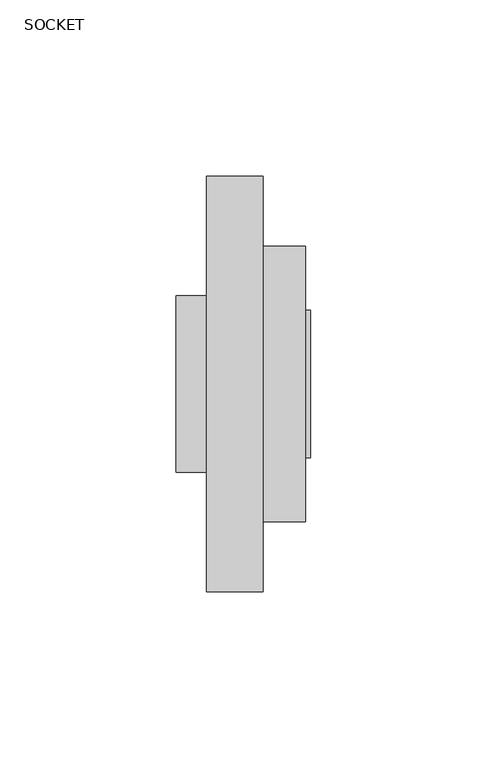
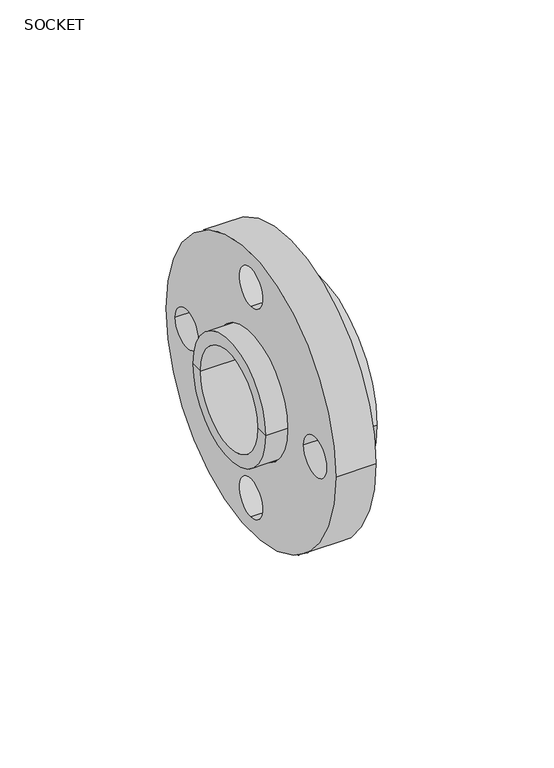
"""IFC4 building model written with IfcOpenShell, lengths in millimetres: valve geometry, Aquatherm - Flange Adapter Socket : SOCKET."""

from ifc_helpers import new_model, si_unit, point, frame, frame_2d, origin, origin_2d, place, context, project, spatial, polyline, circle_curve, trimmed, segment, composite_curve, outline, extrude, source, transform, mapped, element, save
from ifc_brep_helpers import plane_surface, cylinder_surface, revolved_surface, advanced_brep


def socket_cbd8b573(model_context):
    return source(origin(), model_context, "Body", "SolidModel", [
        extrude(outline(composite_curve([segment(trimmed(circle_curve(origin_2d(), 58.801), [point((-58.801, 0.0))], [point((58.801, 0.0))], False, "CARTESIAN"), True, "CONTINUOUS"), segment(trimmed(circle_curve(origin_2d(), 58.801), [point((58.801, 0.0))], [point((-58.801, 0.0))], False, "CARTESIAN"), True, "CONTINUOUS")], self_intersect=False), holes=[composite_curve([segment(trimmed(circle_curve(origin_2d(), 25.4), [point((-25.4, 0.0))], [point((25.4, 0.0))], True, "CARTESIAN"), True, "CONTINUOUS"), segment(trimmed(circle_curve(origin_2d(), 25.4), [point((25.4, 0.0))], [point((-25.4, 0.0))], True, "CARTESIAN"), True, "CONTINUOUS")], self_intersect=False), composite_curve([segment(trimmed(circle_curve(frame_2d((44.45, 0.0)), 8.001), [point((36.449, 0.0))], [point((52.451, 0.0))], True, "CARTESIAN"), True, "CONTINUOUS"), segment(trimmed(circle_curve(frame_2d((44.45, 0.0)), 8.001), [point((52.451, 0.0))], [point((36.449, 0.0))], True, "CARTESIAN"), True, "CONTINUOUS")], self_intersect=False), composite_curve([segment(trimmed(circle_curve(frame_2d((0.0, -44.45)), 8.001), [point((0.0, -36.449))], [point((0.0, -52.451))], True, "CARTESIAN"), True, "CONTINUOUS"), segment(trimmed(circle_curve(frame_2d((0.0, -44.45)), 8.001), [point((0.0, -52.451))], [point((0.0, -36.449))], True, "CARTESIAN"), True, "CONTINUOUS")], self_intersect=False), composite_curve([segment(trimmed(circle_curve(frame_2d((0.0, 44.45)), 8.001), [point((0.0, 36.449))], [point((0.0, 52.451))], True, "CARTESIAN"), True, "CONTINUOUS"), segment(trimmed(circle_curve(frame_2d((0.0, 44.45)), 8.001), [point((0.0, 52.451))], [point((0.0, 36.449))], True, "CARTESIAN"), True, "CONTINUOUS")], self_intersect=False), composite_curve([segment(trimmed(circle_curve(frame_2d((-44.45, 0.0)), 8.001), [point((-36.449, 0.0))], [point((-52.451, 0.0))], True, "CARTESIAN"), True, "CONTINUOUS"), segment(trimmed(circle_curve(frame_2d((-44.45, 0.0)), 8.001), [point((-52.451, 0.0))], [point((-36.449, 0.0))], True, "CARTESIAN"), True, "CONTINUOUS")], self_intersect=False)]), frame((-16.002, 0.0, 0.0), z_axis=(1.0, 0.0, 0.0), x_axis=(0.0, 1.0, 0.0)), (0.0, 0.0, 1.0), 16.002),
        advanced_brep(
        [(13.462, 15.875, 0.0), (13.462, -15.875, 0.0), (13.462, -20.955, 0.0), (13.462, 20.955, 0.0), (-4.064, 15.875, 0.0), (-4.064, -15.875, 0.0), (-4.064, 19.939, 0.0), (-4.064, -19.939, 0.0), (-24.638, 19.939, 0.0), (-24.638, -19.939, 0.0), (-24.638, 25.019, 0.0), (-24.638, -25.019, 0.0), (0.0, 25.019, 0.0), (0.0, -25.019, 0.0), (0.0, 38.989, 0.0), (0.0, -38.989, 0.0), (11.938, 38.989, 0.0), (11.938, -38.989, 0.0), (11.938, 20.955, 0.0), (11.938, -20.955, 0.0)],
        [
            (0, 1, circle_curve(frame((13.462, 0.0, 0.0), z_axis=(-1.0, 0.0, 0.0), x_axis=(0.0, -1.0, 0.0)), 15.875)),
            (1, 2),
            (2, 3, circle_curve(frame((13.462, 0.0, 0.0), z_axis=(1.0, 0.0, 0.0), x_axis=(0.0, -1.0, 0.0)), 20.955)),
            (3, 0),
            (1, 0, circle_curve(frame((13.462, 0.0, 0.0), z_axis=(-1.0, 0.0, 0.0), x_axis=(0.0, -1.0, 0.0)), 15.875)),
            (3, 2, circle_curve(frame((13.462, 0.0, 0.0), z_axis=(1.0, 0.0, 0.0), x_axis=(0.0, -1.0, 0.0)), 20.955)),
            (4, 5, circle_curve(frame((-4.064, 0.0, 0.0), z_axis=(-1.0, 0.0, 0.0), x_axis=(0.0, -1.0, 0.0)), 15.875)),
            (5, 1),
            (0, 4),
            (5, 4, circle_curve(frame((-4.064, 0.0, 0.0), z_axis=(-1.0, 0.0, 0.0), x_axis=(0.0, -1.0, 0.0)), 15.875)),
            (6, 7, circle_curve(frame((-4.064, 0.0, 0.0), z_axis=(-1.0, 0.0, 0.0), x_axis=(0.0, -1.0, 0.0)), 19.939)),
            (7, 5),
            (4, 6),
            (7, 6, circle_curve(frame((-4.064, 0.0, 0.0), z_axis=(-1.0, 0.0, 0.0), x_axis=(0.0, -1.0, 0.0)), 19.939)),
            (8, 9, circle_curve(frame((-24.638, 0.0, 0.0), z_axis=(-1.0, 0.0, 0.0), x_axis=(0.0, -1.0, 0.0)), 19.939)),
            (9, 7),
            (6, 8),
            (9, 8, circle_curve(frame((-24.638, 0.0, 0.0), z_axis=(-1.0, 0.0, 0.0), x_axis=(0.0, -1.0, 0.0)), 19.939)),
            (10, 11, circle_curve(frame((-24.638, 0.0, 0.0), z_axis=(-1.0, 0.0, 0.0), x_axis=(0.0, -1.0, 0.0)), 25.019)),
            (11, 9),
            (8, 10),
            (11, 10, circle_curve(frame((-24.638, 0.0, 0.0), z_axis=(-1.0, 0.0, 0.0), x_axis=(0.0, -1.0, 0.0)), 25.019)),
            (12, 13, circle_curve(frame((0.0, 0.0, 0.0), z_axis=(-1.0, 0.0, 0.0), x_axis=(0.0, -1.0, 0.0)), 25.019)),
            (13, 11),
            (10, 12),
            (13, 12, circle_curve(frame((0.0, 0.0, 0.0), z_axis=(-1.0, 0.0, 0.0), x_axis=(0.0, -1.0, 0.0)), 25.019)),
            (14, 15, circle_curve(frame((0.0, 0.0, 0.0), z_axis=(-1.0, 0.0, 0.0), x_axis=(0.0, -1.0, 0.0)), 38.989)),
            (15, 13),
            (12, 14),
            (15, 14, circle_curve(frame((0.0, 0.0, 0.0), z_axis=(-1.0, 0.0, 0.0), x_axis=(0.0, -1.0, 0.0)), 38.989)),
            (16, 17, circle_curve(frame((11.938, 0.0, 0.0), z_axis=(-1.0, 0.0, 0.0), x_axis=(0.0, -1.0, 0.0)), 38.989)),
            (17, 15),
            (14, 16),
            (17, 16, circle_curve(frame((11.938, 0.0, 0.0), z_axis=(-1.0, 0.0, 0.0), x_axis=(0.0, -1.0, 0.0)), 38.989)),
            (18, 19, circle_curve(frame((11.938, 0.0, 0.0), z_axis=(-1.0, 0.0, 0.0), x_axis=(0.0, -1.0, 0.0)), 20.955)),
            (19, 17),
            (16, 18),
            (19, 18, circle_curve(frame((11.938, 0.0, 0.0), z_axis=(-1.0, 0.0, 0.0), x_axis=(0.0, -1.0, 0.0)), 20.955)),
            (2, 19),
            (18, 3),
        ],
        [
            plane_surface(frame((13.462, 0.0, 0.0), z_axis=(1.0, 0.0, 0.0), x_axis=(0.0, -1.0, 0.0))),
            revolved_surface(polyline([(13.461999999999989, -15.875, 0.0), (-4.064000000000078, -15.875, 0.0)]), (1442.7571939, 0.0, 0.0), (1.0, 0.0, 0.0)),
            plane_surface(frame((-4.064, 0.0, 0.0), z_axis=(-1.0, 0.0, 0.0), x_axis=(0.0, -1.0, 0.0))),
            revolved_surface(polyline([(-4.064000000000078, -19.939, 0.0), (-24.63799999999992, -19.939, 0.0)]), (1442.7571939, 0.0, 0.0), (1.0, 0.0, 0.0)),
            plane_surface(frame((-24.638, 0.0, 0.0), z_axis=(-1.0, 0.0, 0.0), x_axis=(0.0, -1.0, 0.0))),
            cylinder_surface(frame((1442.7571939, 0.0, 0.0), z_axis=(1.0, 0.0, 0.0), x_axis=(0.0, -1.0, 0.0)), 25.019),
            plane_surface(frame((0.0, 0.0, 0.0), z_axis=(-1.0, 0.0, 0.0), x_axis=(0.0, -1.0, 0.0))),
            cylinder_surface(frame((1442.7571939, 0.0, 0.0), z_axis=(1.0, 0.0, 0.0), x_axis=(0.0, -1.0, 0.0)), 38.989),
            plane_surface(frame((11.938, 0.0, 0.0), z_axis=(1.0, 0.0, 0.0), x_axis=(0.0, -1.0, 0.0))),
            cylinder_surface(frame((1442.7571939, 0.0, 0.0), z_axis=(1.0, 0.0, 0.0), x_axis=(0.0, -1.0, 0.0)), 20.955),
        ],
        [
            (0, [[1, 2, 3, 4]]),
            (0, [[5, -4, 6, -2]]),
            (1, [[7, 8, -1, 9]]),
            (1, [[10, -9, -5, -8]]),
            (2, [[11, 12, -7, 13]]),
            (2, [[14, -13, -10, -12]]),
            (3, [[15, 16, -11, 17]]),
            (3, [[18, -17, -14, -16]]),
            (4, [[19, 20, -15, 21]]),
            (4, [[22, -21, -18, -20]]),
            (5, [[23, 24, -19, 25]]),
            (5, [[26, -25, -22, -24]]),
            (6, [[27, 28, -23, 29]]),
            (6, [[30, -29, -26, -28]]),
            (7, [[31, 32, -27, 33]]),
            (7, [[34, -33, -30, -32]]),
            (8, [[35, 36, -31, 37]]),
            (8, [[38, -37, -34, -36]]),
            (9, [[-3, 39, -35, 40]]),
            (9, [[-6, -40, -38, -39]]),
        ],
    ),
    ])


if __name__ == "__main__":
    model = new_model("IFC4")
    model_context = context("Model", 3, world=origin())
    ifc_project = project(units=[si_unit("LENGTHUNIT", "METRE", prefix="MILLI")], contexts=[model_context])
    site = spatial("IfcSite", under=ifc_project)
    building = spatial("IfcBuilding", under=site)
    placement = place(None, origin())
    ifc_socket_shape = socket_cbd8b573(model_context)
    element("IfcValve", 1, ObjectType="Aquatherm - Flange Adapter Socket : SOCKET", at=placement, inside=building, context=model_context, shape_type="MappedRepresentation", body=[
        mapped(ifc_socket_shape, transform((0.0, 0.0, 0.0), x_axis=(1.0, 0.0, 0.0), y_axis=(0.0, 1.0, 0.0), z_axis=(0.0, 0.0, 1.0))),
    ])
    save(model, "model.ifc")
